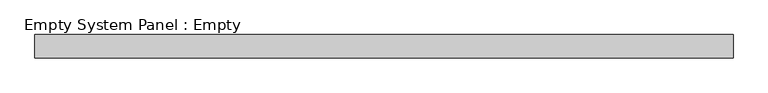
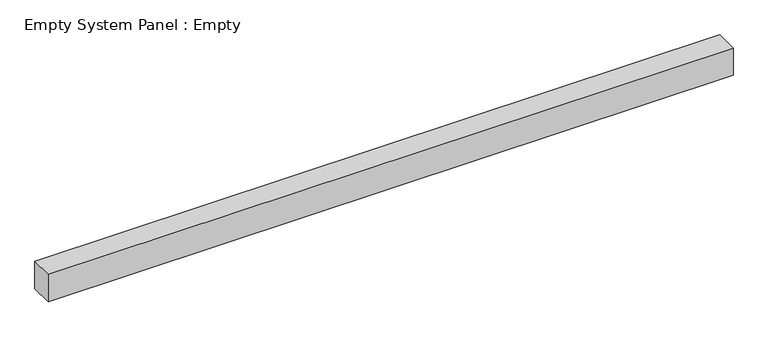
"""IFC4 building model written with IfcOpenShell, lengths in millimetres: plate geometry, Empty System Panel : Empty."""

from ifc_helpers import new_model, si_unit, origin, origin_with_axes, place, context, project, spatial, polyline, outline, extrude, source, transform, mapped, element, save


def empty_system_panel_empty_325c057c(model_context):
    return source(origin(), model_context, "Body", "SweptSolid", [
        extrude(outline(polyline([(1500.0, 50.0), (-1500.0, 50.0), (-1500.0, 150.0), (1500.0, 150.0), (1500.0, 50.0)])), origin_with_axes(), (0.0, 0.0, 1.0), 127.0),
    ])


if __name__ == "__main__":
    model = new_model("IFC4")
    model_context = context("Model", 3, world=origin())
    ifc_project = project(units=[si_unit("LENGTHUNIT", "METRE", prefix="MILLI")], contexts=[model_context])
    site = spatial("IfcSite", under=ifc_project)
    building = spatial("IfcBuilding", under=site)
    placement = place(None, origin())
    empty_system_panel_empty_shape = empty_system_panel_empty_325c057c(model_context)
    element("IfcPlate", 1, ObjectType="Empty System Panel : Empty", at=placement, inside=building, context=model_context, shape_type="MappedRepresentation", body=[
        mapped(empty_system_panel_empty_shape, transform((0.0, 0.0, 0.0), x_axis=(1.0, 0.0, 0.0), y_axis=(0.0, 1.0, 0.0), z_axis=(0.0, 0.0, 1.0))),
    ])
    save(model, "model.ifc")
